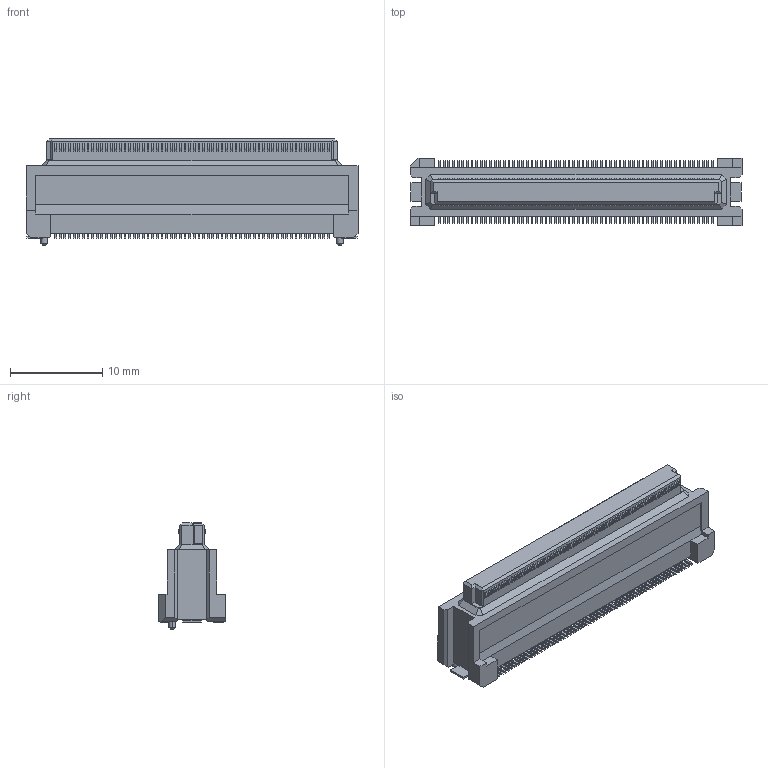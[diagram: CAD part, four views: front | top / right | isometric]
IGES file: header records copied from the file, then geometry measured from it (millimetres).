
Start section: Elysium IGES Interface
Global section: file name: C:\Users\1354\Desktop\DY11-120FS-2.igs; native system: Creo Elements/Direct Modeling 19.0F  14-Feb-2017; preprocessor: Creo Element/Direct IGES_3D V2.2; author: Unknown; organization: Unknown; date: 20171128.102622; units: millimetre
Bounding box: 35.9 x 7.3 x 11.5 mm (x, y, z)
Volume: 1473.3 mm3; surface area: 1470.3 mm2
Topology: 1 solids, 1 shells, 1726 faces, 4753 edges, 3154 vertices
Faces by surface type: bspline 1726
